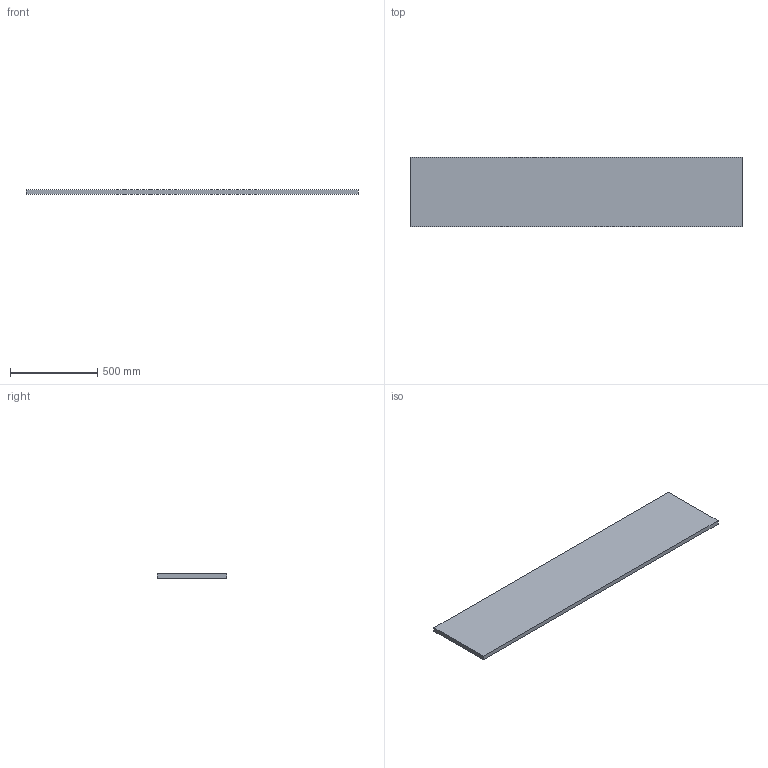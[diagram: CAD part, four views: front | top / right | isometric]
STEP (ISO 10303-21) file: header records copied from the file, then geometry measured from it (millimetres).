
FILE_DESCRIPTION (( 'STEP AP214' ), '1' );
FILE_NAME ('PCOPE0015.STEP', '2025-01-23T11:25:23', ( '' ), ( '' ), 'SwSTEP 2.0', 'SolidWorks 2022', '' );
FILE_SCHEMA (( 'AUTOMOTIVE_DESIGN' ));
Length unit declared in the file: millimetre
Products named in the file (1): PCOPE0015
Bounding box: 1905 x 400 x 25 mm (x, y, z)
Volume: 19050000 mm3; surface area: 1639250 mm2
Topology: 1 solids, 1 shells, 6 faces, 12 edges, 8 vertices
Faces by surface type: plane 6
Entity records: 190 total; most frequent: CARTESIAN_POINT 27, DIRECTION 26, ORIENTED_EDGE 24, LINE 12, EDGE_CURVE 12, VECTOR 12, VERTEX_POINT 8, AXIS2_PLACEMENT_3D 7
